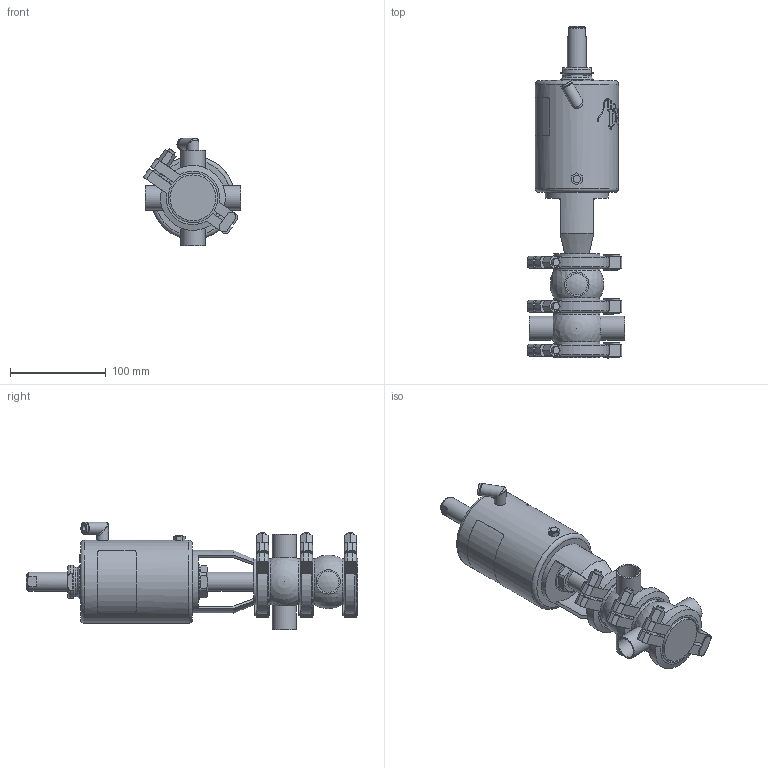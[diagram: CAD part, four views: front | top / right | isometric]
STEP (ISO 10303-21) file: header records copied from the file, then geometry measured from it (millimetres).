
FILE_DESCRIPTION (( 'STEP AP214' ), '1' );
FILE_NAME ('INNOVA M C W OD 1 T1 AS NC_10.241.16.0007.STEP', '2024-08-07T12:41:26', ( '' ), ( '' ), 'SwSTEP 2.0', 'SolidWorks 2023', '' );
FILE_SCHEMA (( 'AUTOMOTIVE_DESIGN' ));
Length unit declared in the file: millimetre
Products named in the file (6): INNOVA M C W OD 1 T1 AS NC_10.241.16.0007; 10.240.15.0014_T1 AS P180; 10.240.15.0007_OD 1"; 10.240.15.0001_DN 025; 10.240.15.0010_DN 025; 10.241.15.0001_DIN 025
Assembly tree (8 placements, depth 2):
  INNOVA M C W OD 1 T1 AS NC_10.241.16.0007
    10.240.15.0007_OD 1"  x2
    10.240.15.0010_DN 025
    10.240.15.0014_T1 AS P180
    10.240.15.0001_DN 025  x3
    10.241.15.0001_DIN 025
Bounding box: 101.94 x 347.09 x 112.25 mm (x, y, z)
Volume: 1109963 mm3; surface area: 167830 mm2
Topology: 9 solids, 9 shells, 472 faces, 1237 edges, 806 vertices
Faces by surface type: plane 227, cylinder 115, bspline 80, cone 40, sphere 6, torus 4
Full cylindrical faces by diameter (mm): 6.15 x1, 8 x7, 8.5 x1, 10.5 x1, 12.5 x3, 16 x1, 20 x2, 22.1 x4, 25.4 x4, 31 x1, 34.5 x2, 36.5 x1, 48 x6, 59.7 x6, 66 x1, 87 x1
Entity records: 19520 total; most frequent: CARTESIAN_POINT 10212, ORIENTED_EDGE 1628, DIRECTION 1251, EDGE_CURVE 814, VERTEX_POINT 559, AXIS2_PLACEMENT_3D 477, EDGE_LOOP 411, FACE_OUTER_BOUND 372
